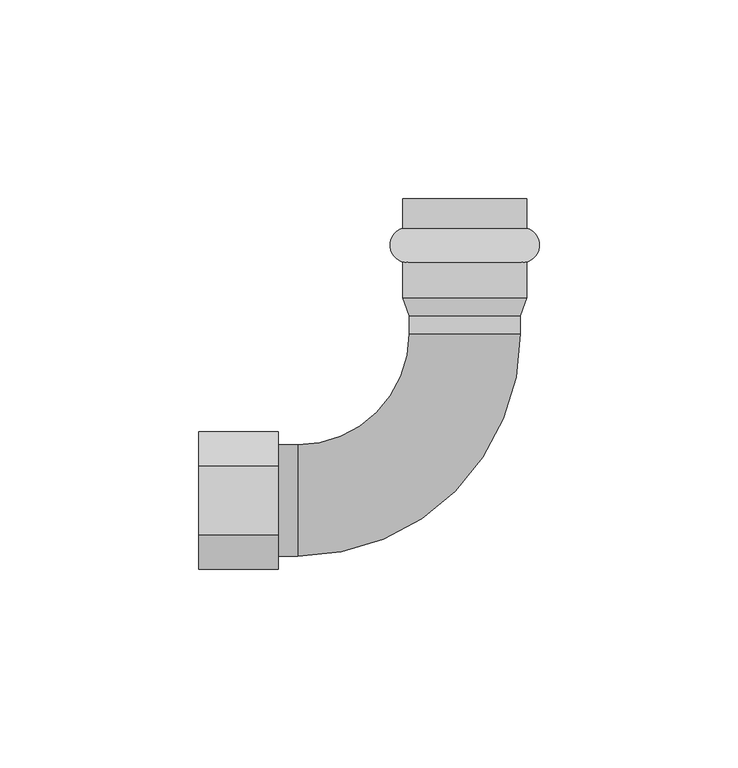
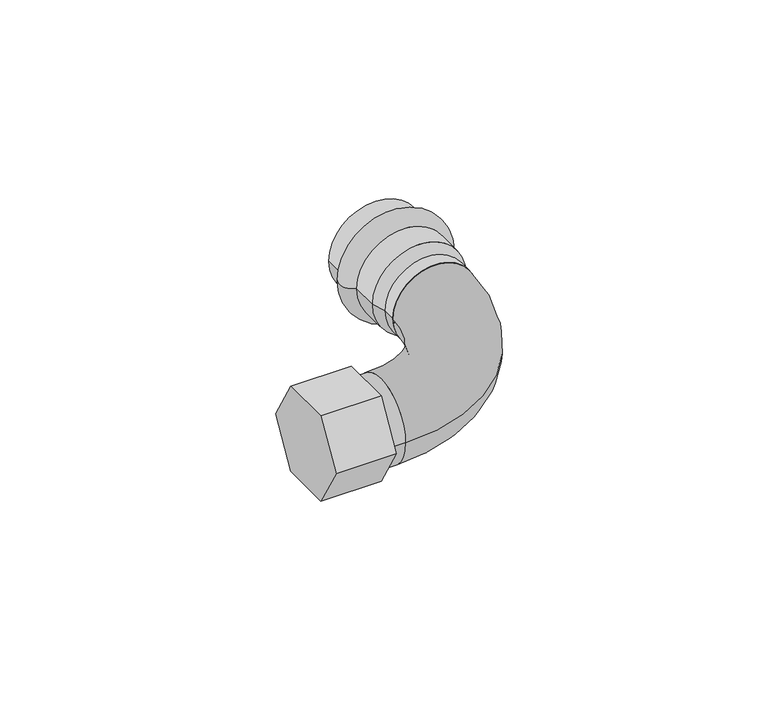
"""IFC4 building model written with IfcOpenShell, lengths in millimetres: valve geometry, Отвод_90°_с_переходом_на_внутреннюю_или_наружнюю_резьбу : VTi.956.I."""

import ifcopenshell
import ifcopenshell.guid

model = None  # the IFC model being written
_history = None  # IfcOwnerHistory: only IFC2X3 demands one
_inside = {}  # id of a spatial element -> (the spatial element, [elements in it])
_under = {}  # id of a project, library or spatial element -> (it, [spatial elements below it])
_declared = {}  # id of a project -> (the project, [libraries it declares])
_typed = {}  # id of a type object -> (the type object, [elements of that type])
_made_of = {}  # id of a material, layer set ... -> (it, [elements and type objects made of it])


def new_model(schema):
    """Start an empty IFC model of exactly this schema.

    Asked for "IFC4X3", IfcOpenShell would pick the latest addendum, in which some entities
    have other attributes; the version numbers below select the first issue.
    IFC2X3 requires an IfcOwnerHistory on every rooted entity: one is made here for all.
    """
    global model, _history
    if schema == "IFC4X3":
        model = ifcopenshell.file(schema_version=(4, 3, 0, 0))
    else:
        model = ifcopenshell.file(schema=schema)
    _inside.clear()
    _under.clear()
    _declared.clear()
    _typed.clear()
    _made_of.clear()
    _history = None
    if model.schema == "IFC2X3":
        org = make("IfcOrganization", Name="unknown")
        user = make(
            "IfcPersonAndOrganization",
            ThePerson=make("IfcPerson", FamilyName="unknown"),
            TheOrganization=org,
        )
        app = make(
            "IfcApplication",
            ApplicationDeveloper=org,
            Version="unknown",
            ApplicationFullName="unknown",
            ApplicationIdentifier="unknown",
        )
        _history = make(
            "IfcOwnerHistory",
            OwningUser=user,
            OwningApplication=app,
            ChangeAction="ADDED",
            CreationDate=0,
        )
    return model


def make(cls, **values):
    """One entity of the class cls with the attributes given. An attribute that is None is left unset."""
    return model.create_entity(
        cls, **{name: value for name, value in values.items() if value is not None}
    )


def rooted(cls, **values):
    """An entity with a GlobalId (a new one), such as an element, a storey or a relation."""
    return make(cls, GlobalId=ifcopenshell.guid.new(), OwnerHistory=_history, **values)


def si_unit(unit_type, name, prefix=None):
    """IfcSIUnit, for example si_unit("LENGTHUNIT", "METRE", prefix="MILLI")."""
    return make("IfcSIUnit", UnitType=unit_type, Prefix=prefix, Name=name)


def assignment(units):
    """IfcUnitAssignment: the units of a project."""
    return None if units is None else make("IfcUnitAssignment", Units=units)


def point(xyz):
    """IfcCartesianPoint."""
    return None if xyz is None else make("IfcCartesianPoint", Coordinates=xyz)


def direction(xyz):
    """IfcDirection."""
    return None if xyz is None else make("IfcDirection", DirectionRatios=xyz)


def frame(location, z_axis=None, x_axis=None):
    """IfcAxis2Placement3D, a coordinate frame: its origin and axes. An axis left out is left unset."""
    return make(
        "IfcAxis2Placement3D",
        Location=point(location),
        Axis=direction(z_axis),
        RefDirection=direction(x_axis),
    )


def origin():
    """The frame at (0, 0, 0) with its axes left unset."""
    return frame((0.0, 0.0, 0.0))


def place(relative_to, where):
    """IfcLocalPlacement: puts the frame where relative to a parent placement (None: the world)."""
    return make(
        "IfcLocalPlacement", PlacementRelTo=relative_to, RelativePlacement=where
    )


def context(
    kind, dimensions, precision=None, world=None, true_north=None, identifier=None
):
    """IfcGeometricRepresentationContext, for example the 3D "Model" context."""
    return make(
        "IfcGeometricRepresentationContext",
        ContextIdentifier=identifier,
        ContextType=kind,
        CoordinateSpaceDimension=dimensions,
        Precision=precision,
        WorldCoordinateSystem=world,
        TrueNorth=true_north,
    )


def project(units=None, contexts=None):
    """IfcProject with its units and contexts."""
    return rooted(
        "IfcProject",
        Name="project",
        RepresentationContexts=contexts,
        UnitsInContext=assignment(units),
    )


def spatial(cls, under=None, at=None, **own):
    """A site, building, storey or space (cls), placed at a placement, below another one or the project."""
    s = rooted(cls, ObjectPlacement=at, **own)
    if under is not None:
        _under.setdefault(under.id(), (under, []))[1].append(s)
    return s


def polyline(points):
    """IfcPolyline through the points."""
    return make("IfcPolyline", Points=[point(p) for p in points])


def circle_curve(where, radius):
    """IfcCircle in the frame where."""
    return make("IfcCircle", Position=where, Radius=radius)


def ellipse_curve(where, semi_axis1, semi_axis2):
    """IfcEllipse in the frame where."""
    return make(
        "IfcEllipse", Position=where, SemiAxis1=semi_axis1, SemiAxis2=semi_axis2
    )


def trimmed(basis, trim1, trim2, sense, master):
    """IfcTrimmedCurve: the piece of a basis curve between two trims."""
    return make(
        "IfcTrimmedCurve",
        BasisCurve=basis,
        Trim1=trim1,
        Trim2=trim2,
        SenseAgreement=sense,
        MasterRepresentation=master,
    )


def outline(outer, holes=None, kind="AREA"):
    """IfcArbitraryClosedProfileDef: a profile drawn as a closed curve; with holes, ...WithVoids."""
    if holes is None:
        return make("IfcArbitraryClosedProfileDef", ProfileType=kind, OuterCurve=outer)
    return make(
        "IfcArbitraryProfileDefWithVoids",
        ProfileType=kind,
        OuterCurve=outer,
        InnerCurves=holes,
    )


def extrude(swept, where, along, depth):
    """IfcExtrudedAreaSolid: the profile swept, set in the frame where, extruded along a direction by depth."""
    return make(
        "IfcExtrudedAreaSolid",
        SweptArea=swept,
        Position=where,
        ExtrudedDirection=direction(along),
        Depth=depth,
    )


def shape(context_of_items, identifier, shape_type, items):
    """IfcShapeRepresentation: the items that make up one representation, for example the "Body"."""
    return make(
        "IfcShapeRepresentation",
        ContextOfItems=context_of_items,
        RepresentationIdentifier=identifier,
        RepresentationType=shape_type,
        Items=items,
    )


def source(mapping_origin, context_of_items, identifier, shape_type, items):
    """IfcRepresentationMap: a shape defined once, which mapped items show again and again."""
    return make(
        "IfcRepresentationMap",
        MappingOrigin=mapping_origin,
        MappedRepresentation=shape(context_of_items, identifier, shape_type, items),
    )


def transform(
    local_origin,
    x_axis=None,
    y_axis=None,
    z_axis=None,
    scale=None,
    scale2=None,
    scale3=None,
    uniform=True,
):
    """IfcCartesianTransformationOperator3D, or its non-uniform kind. x_axis, y_axis, z_axis: its Axis1, 2, 3."""
    if uniform:
        return make(
            "IfcCartesianTransformationOperator3D",
            Axis1=direction(x_axis),
            Axis2=direction(y_axis),
            LocalOrigin=point(local_origin),
            Scale=scale,
            Axis3=direction(z_axis),
        )
    return make(
        "IfcCartesianTransformationOperator3DnonUniform",
        Axis1=direction(x_axis),
        Axis2=direction(y_axis),
        LocalOrigin=point(local_origin),
        Scale=scale,
        Axis3=direction(z_axis),
        Scale2=scale2,
        Scale3=scale3,
    )


def mapped(mapping_source, mapping_target):
    """IfcMappedItem: shows the shape of a source again, moved by a transform."""
    return make(
        "IfcMappedItem", MappingSource=mapping_source, MappingTarget=mapping_target
    )


def made_of(thing, what):
    """Note that an element or type object is made of a material, layer set ...; save() writes the relation."""
    if what is not None:
        _made_of.setdefault(what.id(), (what, []))[1].append(thing)
    return thing


def element(
    cls,
    number,
    at=None,
    inside=None,
    cuts=None,
    type_object=None,
    material=None,
    context=None,
    identifier="Body",
    shape_type=None,
    held_by="IfcProductDefinitionShape",
    body=None,
    shapes=None,
    **own,
):
    """One element of the class cls, such as IfcWall. Its Tag is "e" and its number.

    at: its placement. inside: the storey or other place that contains it. cuts: it is an
    opening in that element (IfcRelVoidsElement). A single representation is given by context,
    identifier, shape_type and body (its items); several are given by shapes. held_by: the class
    of the entity that holds the representations. save() writes the other relations.
    """
    e = rooted(cls, Tag="e%d" % number, ObjectPlacement=at, **own)
    if body is not None:
        shapes = [shape(context, identifier, shape_type, body)]
    if shapes is not None:
        e.Representation = make(held_by, Representations=shapes)
    if inside is not None:
        _inside.setdefault(inside.id(), (inside, []))[1].append(e)
    if cuts is not None:
        rooted(
            "IfcRelVoidsElement", RelatingBuildingElement=cuts, RelatedOpeningElement=e
        )
    if type_object is not None:
        _typed.setdefault(type_object.id(), (type_object, []))[1].append(e)
    return made_of(e, material)


def aggregate(whole, parts):
    """IfcRelAggregates: a whole, such as a stair, and the parts it consists of."""
    return rooted("IfcRelAggregates", RelatingObject=whole, RelatedObjects=parts)


def save(model, path):
    """Write the relations noted so far, then the file.

    IfcRelAggregates (storeys below a building ...), IfcRelContainedInSpatialStructure (elements
    in a storey), IfcRelDefinesByType, IfcRelAssociatesMaterial and IfcRelDeclares: one each for
    every whole, place, type object, material and project.
    """
    for whole, parts in _under.values():
        aggregate(whole, parts)
    for where, things in _inside.values():
        rooted(
            "IfcRelContainedInSpatialStructure",
            RelatedElements=things,
            RelatingStructure=where,
        )
    for kind, things in _typed.values():
        rooted("IfcRelDefinesByType", RelatedObjects=things, RelatingType=kind)
    for what, things in _made_of.values():
        rooted("IfcRelAssociatesMaterial", RelatedObjects=things, RelatingMaterial=what)
    for by, libraries in _declared.values():
        rooted("IfcRelDeclares", RelatingContext=by, RelatedDefinitions=libraries)
    model.write(path)


def plane_surface(at):
    """IfcPlane: the flat surface through the origin of the frame at, square to its z axis."""
    return make("IfcPlane", Position=at)


def cylinder_surface(at, radius):
    """IfcCylindricalSurface: all points at the distance radius from the z axis of the frame at."""
    return make("IfcCylindricalSurface", Position=at, Radius=radius)


def revolved_surface(curve, axis_point, axis_direction):
    """IfcSurfaceOfRevolution: the curve turned about the line through axis_point along axis_direction."""
    return make(
        "IfcSurfaceOfRevolution",
        SweptCurve=make("IfcArbitraryOpenProfileDef", ProfileType="CURVE", Curve=curve),
        AxisPosition=make("IfcAxis1Placement", Location=point(axis_point), Axis=direction(axis_direction)),
    )


def advanced_brep(points, edges, surfaces, faces):
    """IfcAdvancedBrep: a solid bounded by faces that lie on surfaces and meet in shared edges.

    An edge is (start, end): straight between two places in points (the first is 0);
    or (start, end, curve); or (start, end, curve, False) where it runs against its curve.
    A face is (place in surfaces, loops), or (place, loops, False) where it looks against
    its surface's normal. A loop lists edges by number (the first is 1), with a minus sign
    where the edge is run from its end to its start. The first loop is the outer one.
    """
    corners = [point(p) for p in points]
    vertices = [make("IfcVertexPoint", VertexGeometry=c) for c in corners]
    made = []
    for start, end, *more in edges:
        made.append(
            make(
                "IfcEdgeCurve",
                EdgeStart=vertices[start],
                EdgeEnd=vertices[end],
                EdgeGeometry=more[0] if more else make("IfcPolyline", Points=[corners[start], corners[end]]),
                SameSense=more[1] if len(more) > 1 else True,
            )
        )
    hull = []
    for where, loops, *sense in faces:
        bounds = []
        for j, loop in enumerate(loops):
            ring = [make("IfcOrientedEdge", EdgeElement=made[abs(k) - 1], Orientation=k > 0) for k in loop]
            bounds.append(
                make(
                    "IfcFaceOuterBound" if j == 0 else "IfcFaceBound",
                    Bound=make("IfcEdgeLoop", EdgeList=ring),
                    Orientation=True,
                )
            )
        hull.append(make("IfcAdvancedFace", Bounds=bounds, FaceSurface=surfaces[where], SameSense=sense[0] if sense else True))
    return make("IfcAdvancedBrep", Outer=make("IfcClosedShell", CfsFaces=hull))


def valve_c5f4384c(model_context):
    return source(origin(), model_context, "Body", "SolidModel", [
        extrude(outline(polyline([(-8.660254, 15.0), (8.660254, 15.0), (17.3205081, 0.0), (8.660254, -15.0), (-8.660254, -15.0), (-17.3205081, 0.0), (-8.660254, 15.0)])), frame((-67.0, 0.0, 0.0), z_axis=(1.0, 0.0, 0.0), x_axis=(0.0, 1.0, 0.0)), (0.0, 0.0, 1.0), 20.0),
        advanced_brep(
        [(15.58, 68.56, 0.0), (-15.58, 68.56, 0.0), (-15.58, 76.0, 0.0), (15.58, 76.0, 0.0), (15.58, 60.04, 0.0), (-15.58, 60.04, 0.0), (15.58, 51.0, 0.0), (-15.58, 51.0, 0.0), (14.0, 46.52, 0.0), (-14.0, 46.52, 0.0), (14.0, 42.0, 0.0), (-14.0, 42.0, 0.0), (0.0, 42.0, 0.0), (0.0, 76.0, 0.0)],
        [
            (0, 1, circle_curve(frame((0.0, 68.56, 0.0), z_axis=(0.0, 1.0, 0.0), x_axis=(-1.0, 0.0, 0.0)), 15.58)),
            (1, 2),
            (2, 3, circle_curve(frame((0.0, 76.0, 0.0), z_axis=(0.0, -1.0, 0.0), x_axis=(-1.0, 0.0, 0.0)), 15.58)),
            (3, 0),
            (1, 0, circle_curve(frame((0.0, 68.56, 0.0), z_axis=(0.0, 1.0, 0.0), x_axis=(-1.0, 0.0, 0.0)), 15.58)),
            (3, 2, circle_curve(frame((0.0, 76.0, 0.0), z_axis=(0.0, -1.0, 0.0), x_axis=(-1.0, 0.0, 0.0)), 15.58)),
            (4, 5, circle_curve(frame((0.0, 60.04, 0.0), z_axis=(0.0, 1.0, 0.0), x_axis=(-1.0, 0.0, 0.0)), 15.58)),
            (5, 1, circle_curve(frame((-14.3504491, 64.3, 0.0), z_axis=(0.0, 0.0, -1.0), x_axis=(0.0, 1.0, 0.0)), 4.4338917)),
            (0, 4, circle_curve(frame((14.3504491, 64.3, 0.0), z_axis=(0.0, 0.0, -1.0), x_axis=(0.0, 1.0, 0.0)), 4.4338917)),
            (5, 4, circle_curve(frame((0.0, 60.04, 0.0), z_axis=(0.0, 1.0, 0.0), x_axis=(-1.0, 0.0, 0.0)), 15.58)),
            (6, 7, circle_curve(frame((0.0, 51.0, 0.0), z_axis=(0.0, 1.0, 0.0), x_axis=(-1.0, 0.0, 0.0)), 15.58)),
            (7, 5),
            (4, 6),
            (7, 6, circle_curve(frame((0.0, 51.0, 0.0), z_axis=(0.0, 1.0, 0.0), x_axis=(-1.0, 0.0, 0.0)), 15.58)),
            (8, 9, circle_curve(frame((0.0, 46.52, 0.0), z_axis=(0.0, 1.0, 0.0), x_axis=(-1.0, 0.0, 0.0)), 14.0)),
            (9, 7),
            (6, 8),
            (9, 8, circle_curve(frame((0.0, 46.52, 0.0), z_axis=(0.0, 1.0, 0.0), x_axis=(-1.0, 0.0, 0.0)), 14.0)),
            (10, 11, circle_curve(frame((0.0, 42.0, 0.0), z_axis=(0.0, 1.0, 0.0), x_axis=(-1.0, 0.0, 0.0)), 14.0)),
            (11, 9),
            (8, 10),
            (11, 10, circle_curve(frame((0.0, 42.0, 0.0), z_axis=(0.0, 1.0, 0.0), x_axis=(-1.0, 0.0, 0.0)), 14.0)),
            (12, 11),
            (10, 12),
            (2, 13),
            (13, 3),
        ],
        [
            cylinder_surface(frame((0.0, 2076.0, 0.0), z_axis=(0.0, -1.0, 0.0), x_axis=(-1.0, 0.0, 0.0)), 15.58),
            revolved_surface(trimmed(ellipse_curve(frame((-14.3504491, 64.3, 0.0), z_axis=(0.0, 0.0, 1.0), x_axis=(0.0, 1.0, 0.0)), 4.4338917, 4.4338917), [point((-15.58, 68.56, 0.0))], [point((-15.58, 60.04, 0.0))], True, "CARTESIAN"), (0.0, 2076.0, 0.0), (0.0, -1.0, 0.0)),
            revolved_surface(polyline([(-15.58, 51.0, 0.0), (-14.0, 46.52, 0.0)]), (0.0, 2076.0, 0.0), (0.0, -1.0, 0.0)),
            cylinder_surface(frame((0.0, 2076.0, 0.0), z_axis=(0.0, -1.0, 0.0), x_axis=(-1.0, 0.0, 0.0)), 14.0),
            plane_surface(frame((0.0, 42.0, 0.0), z_axis=(0.0, -1.0, 0.0), x_axis=(-1.0, 0.0, 0.0))),
            plane_surface(frame((0.0, 76.0, 0.0), z_axis=(0.0, 1.0, 0.0), x_axis=(-1.0, 0.0, 0.0))),
        ],
        [
            (0, [[1, 2, 3, 4]]),
            (0, [[5, -4, 6, -2]]),
            (1, [[7, 8, -1, 9]]),
            (1, [[10, -9, -5, -8]]),
            (0, [[11, 12, -7, 13]]),
            (0, [[14, -13, -10, -12]]),
            (2, [[15, 16, -11, 17]]),
            (2, [[18, -17, -14, -16]]),
            (3, [[19, 20, -15, 21]]),
            (3, [[22, -21, -18, -20]]),
            (4, [[23, -19, 24]]),
            (4, [[-24, -22, -23]]),
            (5, [[-3, 25, 26]]),
            (5, [[-6, -26, -25]]),
        ],
    ),
        advanced_brep(
        [(-42.0, -14.0, 0.0), (-42.0, 14.0, 0.0), (-42.0, 0.0, 0.0), (-47.0, -14.0, 0.0), (-47.0, 14.0, 0.0), (-47.0, 0.0, 0.0)],
        [
            (0, 1, circle_curve(frame((-42.0, 0.0, 0.0), z_axis=(1.0, 0.0, 0.0), x_axis=(0.0, 1.0, 0.0)), 14.0)),
            (1, 2),
            (2, 0),
            (1, 0, circle_curve(frame((-42.0, 0.0, 0.0), z_axis=(1.0, 0.0, 0.0), x_axis=(0.0, 1.0, 0.0)), 14.0)),
            (3, 4, circle_curve(frame((-47.0, 0.0, 0.0), z_axis=(1.0, 0.0, 0.0), x_axis=(0.0, 1.0, 0.0)), 14.0)),
            (4, 1),
            (0, 3),
            (4, 3, circle_curve(frame((-47.0, 0.0, 0.0), z_axis=(1.0, 0.0, 0.0), x_axis=(0.0, 1.0, 0.0)), 14.0)),
            (5, 4),
            (3, 5),
        ],
        [
            plane_surface(frame((-42.0, 0.0, 0.0), z_axis=(1.0, 0.0, 0.0), x_axis=(0.0, 1.0, 0.0))),
            cylinder_surface(frame((2000.0, 0.0, 0.0), z_axis=(-1.0, 0.0, 0.0), x_axis=(0.0, 1.0, 0.0)), 14.0),
            plane_surface(frame((-47.0, 0.0, 0.0), z_axis=(-1.0, 0.0, 0.0), x_axis=(0.0, 1.0, 0.0))),
        ],
        [
            (0, [[1, 2, 3]]),
            (0, [[4, -3, -2]]),
            (1, [[5, 6, -1, 7]]),
            (1, [[8, -7, -4, -6]]),
            (2, [[9, -5, 10]]),
            (2, [[-10, -8, -9]]),
        ],
    ),
        advanced_brep(
        [(-14.0, 42.0, 0.0), (14.0, 42.0, 0.0), (-42.0, 14.0, 0.0), (-42.0, -14.0, 0.0)],
        [
            (0, 1, circle_curve(frame((0.0, 42.0, 0.0), z_axis=(0.0, 1.0, 0.0), x_axis=(1.0, 0.0, 0.0)), 14.0)),
            (1, 0, circle_curve(frame((0.0, 42.0, 0.0), z_axis=(0.0, 1.0, 0.0), x_axis=(1.0, 0.0, 0.0)), 14.0)),
            (2, 3, circle_curve(frame((-42.0, 0.0, 0.0), z_axis=(-1.0, 0.0, 0.0), x_axis=(0.0, -1.0, 0.0)), 14.0)),
            (3, 2, circle_curve(frame((-42.0, 0.0, 0.0), z_axis=(-1.0, 0.0, 0.0), x_axis=(0.0, -1.0, 0.0)), 14.0)),
            (3, 1, circle_curve(frame((-42.0, 42.0, 0.0), z_axis=(0.0, 0.0, 1.0), x_axis=(1.0, 0.0, 0.0)), 56.0)),
            (0, 2, circle_curve(frame((-42.0, 42.0, 0.0), z_axis=(0.0, 0.0, -1.0), x_axis=(1.0, 0.0, 0.0)), 28.0)),
        ],
        [
            plane_surface(frame((0.0, 42.0, 0.0), z_axis=(0.0, 1.0, 0.0), x_axis=(0.0, 0.0, 1.0))),
            plane_surface(frame((-42.0, 0.0, 0.0), z_axis=(-1.0, 0.0, 0.0), x_axis=(0.0, 0.0, 1.0))),
            revolved_surface(trimmed(ellipse_curve(frame((0.0, 42.0, 0.0), z_axis=(0.0, 1.0, 0.0), x_axis=(1.0, 0.0, 0.0)), 14.0, 14.0), [point((-14.0, 42.0, 0.0))], [point((14.0, 42.0, 0.0))], True, "CARTESIAN"), (-42.0, 42.0, 0.0), (0.0, 0.0, -1.0)),
            revolved_surface(trimmed(ellipse_curve(frame((0.0, 42.0, 0.0), z_axis=(0.0, 1.0, 0.0), x_axis=(1.0, 0.0, 0.0)), 14.0, 14.0), [point((14.0, 42.0, 0.0))], [point((-14.0, 42.0, 0.0))], True, "CARTESIAN"), (-42.0, 42.0, 0.0), (0.0, 0.0, -1.0)),
        ],
        [
            (0, [[1, 2]]),
            (1, [[3, 4]]),
            (2, [[5, -1, 6, -4]]),
            (3, [[-6, -2, -5, -3]]),
        ],
    ),
    ])


if __name__ == "__main__":
    model = new_model("IFC4")
    model_context = context("Model", 3, world=origin())
    ifc_project = project(units=[si_unit("LENGTHUNIT", "METRE", prefix="MILLI")], contexts=[model_context])
    site = spatial("IfcSite", under=ifc_project)
    building = spatial("IfcBuilding", under=site)
    placement = place(None, origin())
    valve_shape = valve_c5f4384c(model_context)
    element("IfcValve", 1, ObjectType="Отвод_90°_с_переходом_на_внутреннюю_или_наружнюю_резьбу : VTi.956.I", at=placement, inside=building, context=model_context, shape_type="MappedRepresentation", body=[
        mapped(valve_shape, transform((0.0, 0.0, 0.0), x_axis=(1.0, 0.0, 0.0), y_axis=(0.0, 1.0, 0.0), z_axis=(0.0, 0.0, 1.0))),
    ])
    save(model, "model.ifc")
